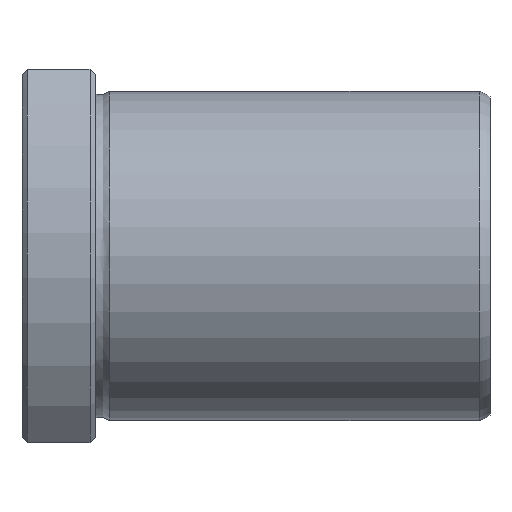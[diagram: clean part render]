
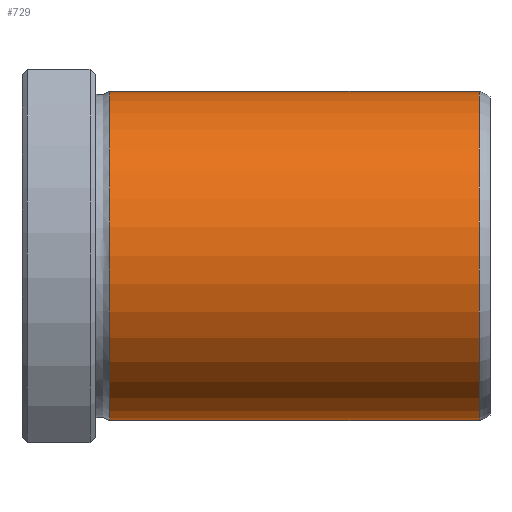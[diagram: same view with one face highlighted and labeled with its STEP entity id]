
A CAD part, top view. The second image highlights one B-rep face of the part: STEP entity #729.
In plain terms, the highlighted cylindrical face has radius 22.5 mm (diameter 45 mm), a full revolution.
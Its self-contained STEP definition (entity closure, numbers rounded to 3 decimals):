
#695=CARTESIAN_POINT('',(62.502,0.0,22.5));
#696=VERTEX_POINT('',#695);
#697=CARTESIAN_POINT('',(62.502,0.0,0.0));
#698=DIRECTION('',(-1.0,0.0,0.0));
#699=DIRECTION('',(0.0,0.0,1.0));
#700=AXIS2_PLACEMENT_3D('',#697,#698,#699);
#701=CIRCLE('',#700,22.5);
#702=EDGE_CURVE('',#696,#696,#701,.T.);
#710=CARTESIAN_POINT('',(37.262,0.0,0.0));
#711=DIRECTION('',(-1.0,0.0,0.0));
#712=DIRECTION('',(0.0,0.0,1.0));
#713=AXIS2_PLACEMENT_3D('',#710,#711,#712);
#714=CYLINDRICAL_SURFACE('',#713,22.5);
#715=CARTESIAN_POINT('',(12.023,0.0,22.5));
#716=VERTEX_POINT('',#715);
#717=CARTESIAN_POINT('',(12.023,0.0,0.0));
#718=DIRECTION('',(-1.0,0.0,0.0));
#719=DIRECTION('',(0.0,0.0,1.0));
#720=AXIS2_PLACEMENT_3D('',#717,#718,#719);
#721=CIRCLE('',#720,22.5);
#722=EDGE_CURVE('',#716,#716,#721,.T.);
#723=ORIENTED_EDGE('',*,*,#722,.F.);
#724=EDGE_LOOP('',(#723));
#725=FACE_OUTER_BOUND('',#724,.T.);
#726=ORIENTED_EDGE('',*,*,#702,.T.);
#727=EDGE_LOOP('',(#726));
#728=FACE_BOUND('',#727,.T.);
#729=ADVANCED_FACE('',(#725,#728),#714,.T.);
